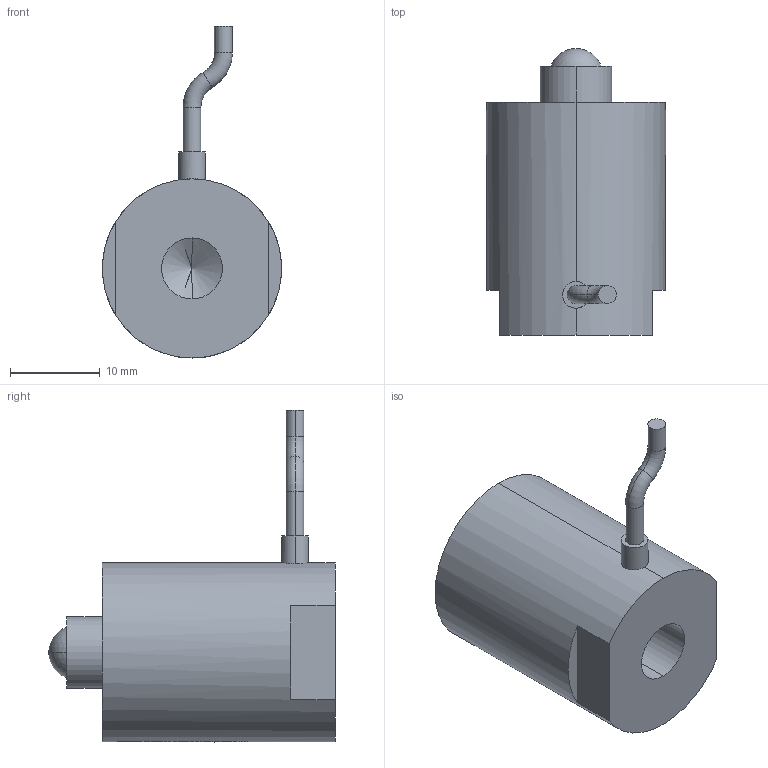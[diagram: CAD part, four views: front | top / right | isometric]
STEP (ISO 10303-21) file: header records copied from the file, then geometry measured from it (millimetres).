
FILE_DESCRIPTION (( 'STEP AP203' ), '1' );
FILE_NAME ('球头式7VS20.STEP', '2021-07-08T05:50:17', ( '微软用户' ), ( '微软公司' ), 'SwSTEP 2.0', 'SolidWorks 2016', '' );
FILE_SCHEMA (( 'CONFIG_CONTROL_DESIGN' ));
Length unit declared in the file: millimetre
Products named in the file (1): ⑩芛宒7VS20
Bounding box: 20 x 32 x 37.06 mm (x, y, z)
Volume: 7945.7 mm3; surface area: 2734.2 mm2
Topology: 1 solids, 1 shells, 910 faces, 2465 edges, 1638 vertices
Faces by surface type: bspline 501, plane 300, cylinder 101, torus 4, sphere 2, cone 2
Entity records: 42921 total; most frequent: CARTESIAN_POINT 24470, ORIENTED_EDGE 4918, EDGE_CURVE 2459, DIRECTION 1879, B_SPLINE_CURVE_WITH_KNOTS 1660, VERTEX_POINT 1636, EDGE_LOOP 995, FACE_OUTER_BOUND 910
